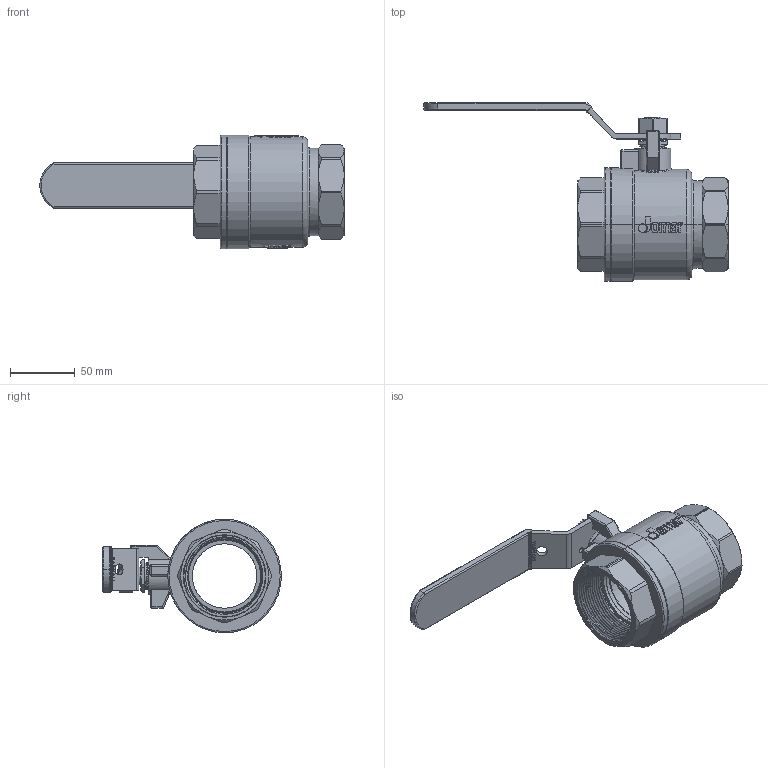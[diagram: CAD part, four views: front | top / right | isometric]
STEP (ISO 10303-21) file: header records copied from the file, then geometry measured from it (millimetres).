
FILE_DESCRIPTION (( 'STEP AP203' ), '1' );
FILE_NAME ('ABL728-礚本玛-2''''JOMAR 瞴恢砰舱.STEP', '2026-04-13T02:33:36', ( '' ), ( '' ), 'SwSTEP 2.0', 'SolidWorks 2018', '' );
FILE_SCHEMA (( 'CONFIG_CONTROL_DESIGN' ));
Length unit declared in the file: millimetre
Products named in the file (13): GBL218; TBL269; BBL728A-2''''JOMAR八角頭-有鉛插溝; EBL208B; EBL208C; CBL238; DN40-DN50-CBL727-無掛鎖把手組合-黃色膠套 T-200CSS; NBL268; EBL308; BBL728-2''''JOMAR瞴恢砰-Τ筣-础肪礚LF; ABL728-無掛鎖-2''''JOMAR 球閥體組合; RBL267; DN50-CBL238黃色膠套-T-200CSS
Assembly tree (13 placements, depth 3):
  ABL728-無掛鎖-2''''JOMAR 球閥體組合
    BBL728-2''''JOMAR瞴恢砰-Τ筣-础肪礚LF
    EBL208C
    EBL208B
    RBL267
    GBL218
    BBL728A-2''''JOMAR八角頭-有鉛插溝
    EBL308  x2
    NBL268
    TBL269
    DN40-DN50-CBL727-無掛鎖把手組合-黃色膠套 T-200CSS
      CBL238
      DN50-CBL238黃色膠套-T-200CSS
Bounding box: 235.7 x 138.51 x 88 mm (x, y, z)
Volume: 329950.7 mm3; surface area: 163258.1 mm2
Topology: 12 solids, 12 shells, 1528 faces, 4068 edges, 2666 vertices
Faces by surface type: plane 592, bspline 476, cylinder 277, cone 142, torus 27, sphere 14
Entity records: 95065 total; most frequent: CARTESIAN_POINT 60121, ORIENTED_EDGE 8060, DIRECTION 5158, EDGE_CURVE 4030, VERTEX_POINT 2646, LINE 2012, VECTOR 2012, EDGE_LOOP 1650
